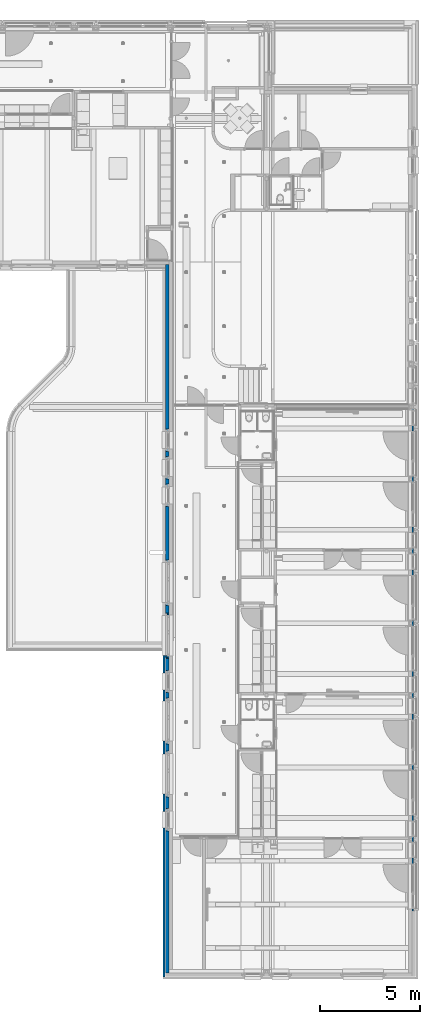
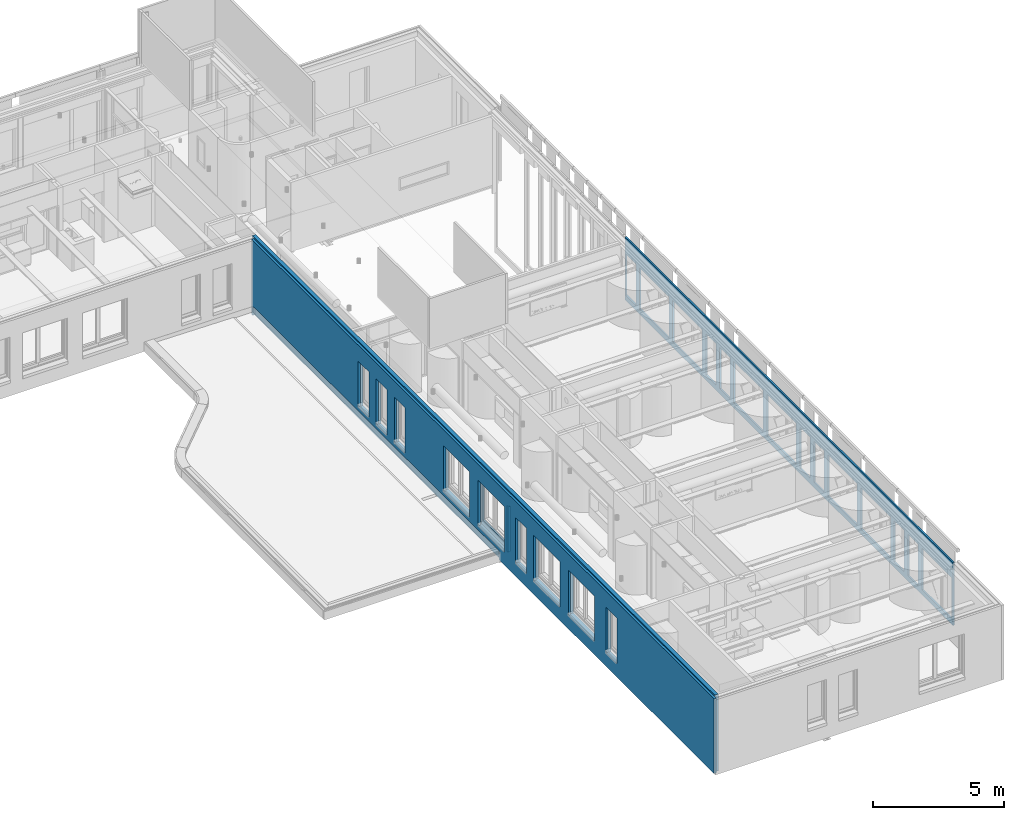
# One storey, part 36 of 128: 5 walls, 34 openings.
"""IFC2X3 building model written with IfcOpenShell, lengths in millimetres."""

from ifc_helpers import new_model, entity, si_unit, converted_unit, derived_unit, direction, frame, frame_2d, origin, place, context, subcontext, project, spatial, rectangle, extrude, material, layer, layer_set, layer_usage, type_object, element, save


model = new_model("IFC2X3")

# Units and contexts
model_context = context("Model", 3, precision=0.01, world=origin(), true_north=direction((6.123031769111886e-17, 1.0)))
body_context = subcontext(model_context, "Body", "Model", "MODEL_VIEW")
ifc_project = project(units=[si_unit("LENGTHUNIT", "METRE", prefix="MILLI"), si_unit("AREAUNIT", "SQUARE_METRE"), si_unit("VOLUMEUNIT", "CUBIC_METRE"), converted_unit("PLANEANGLEUNIT", "DEGREE", entity("IfcRatioMeasure", 0.017453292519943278), si_unit("PLANEANGLEUNIT", "RADIAN"), dimensions=[0, 0, 0, 0, 0, 0, 0]), si_unit("MASSUNIT", "GRAM", prefix="KILO"), derived_unit("MASSDENSITYUNIT", [(si_unit("MASSUNIT", "GRAM", prefix="KILO"), 1), (si_unit("LENGTHUNIT", "METRE"), -3)]), derived_unit("IONCONCENTRATIONUNIT", [(si_unit("MASSUNIT", "GRAM", prefix="KILO"), 1), (si_unit("LENGTHUNIT", "METRE"), -3)]), derived_unit("MOMENTOFINERTIAUNIT", [(si_unit("LENGTHUNIT", "METRE"), 4)]), si_unit("TIMEUNIT", "SECOND"), si_unit("FREQUENCYUNIT", "HERTZ"), si_unit("THERMODYNAMICTEMPERATUREUNIT", "DEGREE_CELSIUS"), derived_unit("THERMALTRANSMITTANCEUNIT", [(si_unit("MASSUNIT", "GRAM", prefix="KILO"), 1), (si_unit("THERMODYNAMICTEMPERATUREUNIT", "KELVIN"), -1), (si_unit("TIMEUNIT", "SECOND"), -3)]), derived_unit("THERMALCONDUCTANCEUNIT", [(si_unit("MASSUNIT", "GRAM", prefix="KILO"), 1), (si_unit("THERMODYNAMICTEMPERATUREUNIT", "KELVIN"), -1), (si_unit("TIMEUNIT", "SECOND"), -3), (si_unit("LENGTHUNIT", "METRE"), 1)]), derived_unit("VOLUMETRICFLOWRATEUNIT", [(si_unit("LENGTHUNIT", "METRE"), 3), (si_unit("TIMEUNIT", "SECOND"), -1)]), derived_unit("MASSFLOWRATEUNIT", [(si_unit("MASSUNIT", "GRAM", prefix="KILO"), 1), (si_unit("TIMEUNIT", "SECOND"), -1)]), derived_unit("ROTATIONALFREQUENCYUNIT", [(si_unit("TIMEUNIT", "SECOND"), -1)]), si_unit("ELECTRICCURRENTUNIT", "AMPERE"), si_unit("ELECTRICVOLTAGEUNIT", "VOLT"), si_unit("POWERUNIT", "WATT"), si_unit("FORCEUNIT", "NEWTON", prefix="KILO"), si_unit("ILLUMINANCEUNIT", "LUX"), si_unit("LUMINOUSFLUXUNIT", "LUMEN"), si_unit("LUMINOUSINTENSITYUNIT", "CANDELA"), derived_unit("USERDEFINED", [(si_unit("MASSUNIT", "GRAM", prefix="KILO"), -1), (si_unit("LENGTHUNIT", "METRE"), -2), (si_unit("TIMEUNIT", "SECOND"), 3), (si_unit("LUMINOUSFLUXUNIT", "LUMEN"), 1)]), derived_unit("USERDEFINED", [(si_unit("MASSUNIT", "GRAM", prefix="KILO"), 1), (si_unit("TIMEUNIT", "SECOND"), -3), (si_unit("LENGTHUNIT", "METRE"), 3), (si_unit("ELECTRICCURRENTUNIT", "AMPERE"), -2)]), derived_unit("SOUNDPOWERUNIT", [(si_unit("MASSUNIT", "GRAM", prefix="KILO"), 1), (si_unit("TIMEUNIT", "SECOND"), -3), (si_unit("LENGTHUNIT", "METRE"), 2)]), derived_unit("SOUNDPRESSUREUNIT", [(si_unit("MASSUNIT", "GRAM", prefix="KILO"), 1), (si_unit("LENGTHUNIT", "METRE"), -1), (si_unit("TIMEUNIT", "SECOND"), -2)]), derived_unit("LINEARVELOCITYUNIT", [(si_unit("LENGTHUNIT", "METRE"), 1), (si_unit("TIMEUNIT", "SECOND"), -1)]), si_unit("PRESSUREUNIT", "PASCAL"), derived_unit("USERDEFINED", [(si_unit("MASSUNIT", "GRAM", prefix="KILO"), 1), (si_unit("LENGTHUNIT", "METRE"), -2), (si_unit("TIMEUNIT", "SECOND"), -2)]), derived_unit("LINEARFORCEUNIT", [(si_unit("MASSUNIT", "GRAM", prefix="KILO"), 1), (si_unit("TIMEUNIT", "SECOND"), -2)]), derived_unit("PLANARFORCEUNIT", [(si_unit("MASSUNIT", "GRAM", prefix="KILO"), 1), (si_unit("LENGTHUNIT", "METRE"), -1), (si_unit("TIMEUNIT", "SECOND"), -2)]), derived_unit("SPECIFICHEATCAPACITYUNIT", [(si_unit("THERMODYNAMICTEMPERATUREUNIT", "KELVIN"), -1), (si_unit("LENGTHUNIT", "METRE"), 2), (si_unit("TIMEUNIT", "SECOND"), -2)]), derived_unit("HEATINGVALUEUNIT", [(si_unit("LENGTHUNIT", "METRE"), 2), (si_unit("TIMEUNIT", "SECOND"), -2)]), derived_unit("VAPORPERMEABILITYUNIT", [(si_unit("LENGTHUNIT", "METRE"), -1), (si_unit("TIMEUNIT", "SECOND"), 1)]), derived_unit("DYNAMICVISCOSITYUNIT", [(si_unit("MASSUNIT", "GRAM", prefix="KILO"), 1), (si_unit("TIMEUNIT", "SECOND"), -1), (si_unit("LENGTHUNIT", "METRE"), -1)]), derived_unit("THERMALEXPANSIONCOEFFICIENTUNIT", [(si_unit("THERMODYNAMICTEMPERATUREUNIT", "KELVIN"), -1)]), derived_unit("MODULUSOFELASTICITYUNIT", [(si_unit("MASSUNIT", "GRAM", prefix="KILO"), 1), (si_unit("LENGTHUNIT", "METRE"), -1), (si_unit("TIMEUNIT", "SECOND"), -2)]), derived_unit("ISOTHERMALMOISTURECAPACITYUNIT", [(si_unit("LENGTHUNIT", "METRE"), 3), (si_unit("MASSUNIT", "GRAM", prefix="KILO"), -1)]), derived_unit("MOISTUREDIFFUSIVITYUNIT", [(si_unit("TIMEUNIT", "SECOND"), -1), (si_unit("LENGTHUNIT", "METRE"), 2)])], contexts=[model_context])

# Site, building, storey
site_placement = place(None, frame((0.0, 300.0, 0.0)))
site = spatial("IfcSite", under=ifc_project, at=site_placement, Name="<Kadastrale nummers>", CompositionType="ELEMENT")
building_placement = place(site_placement, origin())
building = spatial("IfcBuilding", under=site, at=building_placement, CompositionType="ELEMENT")
storey_placement = place(building_placement, frame((0.0, 0.0, 3560.0000331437)))
storey = spatial("IfcBuildingStorey", under=building, at=storey_placement, Name="01 eerste verdieping", CompositionType="ELEMENT", Elevation=3560.0000331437)

# Wall, openings
ifc_material_1 = material(Name="ISR_Metselwerk")
ifc_layer_1 = layer(ifc_material_1, 100.0)
ifc_layer_set_1 = layer_set([ifc_layer_1], Name="Basic Wall:21_DAT_metselwerk_100")
ifc_layer_usage_1 = layer_usage(ifc_layer_set_1, "AXIS2", "NEGATIVE", 50.0)
wall_type_1 = type_object("IfcWallType", Name="Basic Wall:21_DAT_metselwerk_100", PredefinedType="STANDARD", material=ifc_layer_set_1)
wall_1_placement = place(storey_placement, frame((36275.0, 2424.9986232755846, 90.00000187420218), z_axis=(0.0, 0.0, 1.0), x_axis=(0.0, 1.0, 0.0)))
wall_1 = element("IfcWallStandardCase", 1, at=wall_1_placement, inside=storey, type_object=wall_type_1, material=ifc_layer_usage_1, Name="Basic Wall:21_DAT_metselwerk_100", ObjectType="Basic Wall:21_DAT_metselwerk_100", context=body_context, shape_type="SweptSolid", body=[
    extrude(rectangle(XDim=35400.0013767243, YDim=100.00000000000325, at=frame_2d((17700.00068836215, 1.1013412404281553e-13), x_axis=(-1.0, 0.0))), origin(), (0.0, 0.0, 1.0), 3499.9999999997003),
])
opening_1_placement = place(wall_1_placement, origin())
element("IfcOpeningElement", 2, at=opening_1_placement, cuts=wall_1, Name="Basic Wall:21_DAT_metselwerk_100", ObjectType="Opening", context=body_context, shape_type="SweptSolid", body=[
    extrude(rectangle(XDim=514.999966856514, YDim=18840.000000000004, at=frame_2d((0.0, 2.8421709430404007e-13), x_axis=(0.0, 1.0))), frame((25880.0013767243, -202.3999999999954, 167.49998155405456), z_axis=(0.0, 1.0, 0.0), x_axis=(-1.0, 0.0, 0.0)), (0.0, 0.0, 1.0), 404.79999999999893),
])
opening_2_placement = place(wall_1_placement, frame((-2424.9986232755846, 36275.0, -90.0000018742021), z_axis=(0.0, 0.0, 1.0), x_axis=(0.0, -1.0, 0.0)))
element("IfcOpeningElement", 3, at=opening_2_placement, cuts=wall_1, Name="Basic Wall:21_DAT_metselwerk_100", ObjectType="Opening", context=body_context, shape_type="SweptSolid", body=[
    extrude(rectangle(XDim=2124.999999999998, YDim=839.9999999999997, at=frame_2d((5.684341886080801e-13, 0.0), x_axis=(1.0, 0.0))), frame((36325.0, 26485.0, 1777.5000018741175), z_axis=(-1.0, 0.0, 0.0), x_axis=(0.0, 0.0, -1.0)), (0.0, 0.0, 1.0), 100.00000000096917),
])
opening_3_placement = place(wall_1_placement, frame((-2424.9986232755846, 36275.0, -90.0000018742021), z_axis=(0.0, 0.0, 1.0), x_axis=(0.0, -1.0, 0.0)))
element("IfcOpeningElement", 4, at=opening_3_placement, cuts=wall_1, Name="Basic Wall:21_DAT_metselwerk_100", ObjectType="Opening", context=body_context, shape_type="SweptSolid", body=[
    extrude(rectangle(XDim=2124.999999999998, YDim=2000.0000000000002, at=frame_2d((2.2737367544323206e-13, 2.1600499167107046e-12), x_axis=(1.0, 0.0))), frame((36325.0, 22130.0, 1777.5000018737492), z_axis=(-1.0, 0.0, 0.0), x_axis=(0.0, 0.0, -1.0)), (0.0, 0.0, 1.0), 100.00000000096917),
])
opening_4_placement = place(wall_1_placement, frame((-2424.9986232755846, 36275.0, -90.0000018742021), z_axis=(0.0, 0.0, 1.0), x_axis=(0.0, -1.0, 0.0)))
element("IfcOpeningElement", 5, at=opening_4_placement, cuts=wall_1, Name="Basic Wall:21_DAT_metselwerk_100", ObjectType="Opening", context=body_context, shape_type="SweptSolid", body=[
    extrude(rectangle(XDim=2124.999999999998, YDim=1999.9999999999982, at=frame_2d((2.2737367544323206e-13, 1.0800249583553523e-12), x_axis=(1.0, 0.0))), frame((36325.0, 12580.0, 1777.5000018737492), z_axis=(-1.0, 0.0, 0.0), x_axis=(0.0, 0.0, -1.0)), (0.0, 0.0, 1.0), 100.00000000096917),
])
opening_5_placement = place(wall_1_placement, frame((-2424.9986232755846, 36275.0, -90.0000018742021), z_axis=(0.0, 0.0, 1.0), x_axis=(0.0, -1.0, 0.0)))
element("IfcOpeningElement", 6, at=opening_5_placement, cuts=wall_1, Name="Basic Wall:21_DAT_metselwerk_100", ObjectType="Opening", context=body_context, shape_type="SweptSolid", body=[
    extrude(rectangle(XDim=2124.999999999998, YDim=1999.9999999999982, at=frame_2d((5.684341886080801e-13, 1.0800249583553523e-12), x_axis=(1.0, 0.0))), frame((36325.0, 15230.0, 1777.500001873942), z_axis=(-1.0, 0.0, 0.0), x_axis=(0.0, 0.0, -1.0)), (0.0, 0.0, 1.0), 100.00000000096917),
])
opening_6_placement = place(wall_1_placement, frame((-2424.9986232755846, 36275.0, -90.0000018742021), z_axis=(0.0, 0.0, 1.0), x_axis=(0.0, -1.0, 0.0)))
element("IfcOpeningElement", 7, at=opening_6_placement, cuts=wall_1, Name="Basic Wall:21_DAT_metselwerk_100", ObjectType="Opening", context=body_context, shape_type="SweptSolid", body=[
    extrude(rectangle(XDim=2124.999999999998, YDim=1999.9999999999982, at=frame_2d((2.2737367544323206e-13, -1.0800249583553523e-12), x_axis=(1.0, 0.0))), frame((36325.0, 19480.0, 1777.5000018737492), z_axis=(-1.0, 0.0, 0.0), x_axis=(0.0, 0.0, -1.0)), (0.0, 0.0, 1.0), 100.00000000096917),
])
opening_7_placement = place(wall_1_placement, frame((-2424.9986232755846, 36275.0, -90.0000018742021), z_axis=(0.0, 0.0, 1.0), x_axis=(0.0, -1.0, 0.0)))
element("IfcOpeningElement", 8, at=opening_7_placement, cuts=wall_1, Name="Basic Wall:21_DAT_metselwerk_100", ObjectType="Opening", context=body_context, shape_type="SweptSolid", body=[
    extrude(rectangle(XDim=2124.999999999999, YDim=839.9999999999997, at=frame_2d((-5.684341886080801e-13, 0.0), x_axis=(1.0, 0.0))), frame((36325.0, 17190.0, 1777.5000018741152), z_axis=(-1.0, 0.0, 0.0), x_axis=(0.0, 0.0, -1.0)), (0.0, 0.0, 1.0), 100.00000000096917),
])
opening_8_placement = place(wall_1_placement, frame((-2424.9986232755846, 36275.0, -90.0000018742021), z_axis=(0.0, 0.0, 1.0), x_axis=(0.0, -1.0, 0.0)))
element("IfcOpeningElement", 9, at=opening_8_placement, cuts=wall_1, Name="Basic Wall:21_DAT_metselwerk_100", ObjectType="Opening", context=body_context, shape_type="SweptSolid", body=[
    extrude(rectangle(XDim=2124.999999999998, YDim=839.9999999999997, at=frame_2d((2.2737367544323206e-13, 0.0), x_axis=(1.0, 0.0))), frame((36325.0, 10290.0, 1777.5000018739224), z_axis=(-1.0, 0.0, 0.0), x_axis=(0.0, 0.0, -1.0)), (0.0, 0.0, 1.0), 100.00000000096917),
])
opening_9_placement = place(wall_1_placement, frame((-2424.9986232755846, 36275.0, -90.0000018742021), z_axis=(0.0, 0.0, 1.0), x_axis=(0.0, -1.0, 0.0)))
element("IfcOpeningElement", 10, at=opening_9_placement, cuts=wall_1, Name="Basic Wall:21_DAT_metselwerk_100", ObjectType="Opening", context=body_context, shape_type="SweptSolid", body=[
    extrude(rectangle(XDim=2124.999999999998, YDim=839.9999999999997, at=frame_2d((5.684341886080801e-13, 0.0), x_axis=(1.0, 0.0))), frame((36325.0, 27865.0, 1777.5000018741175), z_axis=(-1.0, 0.0, 0.0), x_axis=(0.0, 0.0, -1.0)), (0.0, 0.0, 1.0), 100.00000000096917),
])
opening_10_placement = place(wall_1_placement, frame((-2424.9986232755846, 36275.0, -90.0000018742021), z_axis=(0.0, 0.0, 1.0), x_axis=(0.0, -1.0, 0.0)))
element("IfcOpeningElement", 11, at=opening_10_placement, cuts=wall_1, Name="Basic Wall:21_DAT_metselwerk_100", ObjectType="Opening", context=body_context, shape_type="SweptSolid", body=[
    extrude(rectangle(XDim=2124.999999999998, YDim=839.9999999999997, at=frame_2d((5.684341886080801e-13, 0.0), x_axis=(1.0, 0.0))), frame((36325.0, 29245.0, 1777.5000018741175), z_axis=(-1.0, 0.0, 0.0), x_axis=(0.0, 0.0, -1.0)), (0.0, 0.0, 1.0), 100.00000000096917),
])

# Wall
wall_2_placement = place(storey_placement, frame((36325.0, 18430.0, 715.0000018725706)))
element("IfcWallStandardCase", 12, at=wall_2_placement, inside=storey, type_object=wall_type_1, material=ifc_layer_usage_1, Name="Basic Wall:21_DAT_metselwerk_100", ObjectType="Basic Wall:21_DAT_metselwerk_100", context=body_context, shape_type="SweptSolid", body=[
    extrude(rectangle(XDim=110.00000000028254, YDim=99.99999999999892, at=frame_2d((55.00000000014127, -1.6697754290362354e-13), x_axis=(-1.0, 0.0))), origin(), (0.0, 0.0, 1.0), 2125.0000000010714),
])

# Wall, openings
ifc_material_2 = material(Name="ISR_Isolatie")
ifc_layer_2 = layer(ifc_material_2, 160.0)
ifc_layer_set_2 = layer_set([ifc_layer_2], Name="Basic Wall:21_DAT_isolatie minerale wol_160")
ifc_layer_usage_2 = layer_usage(ifc_layer_set_2, "AXIS2", "NEGATIVE", 80.0)
wall_type_2 = type_object("IfcWallType", Name="Basic Wall:21_DAT_isolatie minerale wol_160", PredefinedType="STANDARD", material=ifc_layer_set_2)
wall_3_placement = place(storey_placement, frame((36445.0, 2624.9986232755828, 0.0), z_axis=(0.0, 0.0, 1.0), x_axis=(0.0, 1.0, 0.0)))
wall_3 = element("IfcWallStandardCase", 13, at=wall_3_placement, inside=storey, type_object=wall_type_2, material=ifc_layer_usage_2, Name="Basic Wall:21_DAT_isolatie minerale wol_160", ObjectType="Basic Wall:21_DAT_isolatie minerale wol_160", context=body_context, shape_type="SweptSolid", body=[
    extrude(rectangle(XDim=35400.0013767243, YDim=159.99999999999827, at=frame_2d((17700.00068836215, 0.0), x_axis=(-1.0, 0.0))), origin(), (0.0, 0.0, 1.0), 3590.000001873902),
])
opening_11_placement = place(wall_3_placement, origin())
element("IfcOpeningElement", 14, at=opening_11_placement, cuts=wall_3, Name="Basic Wall:21_DAT_isolatie minerale wol_160", ObjectType="Opening", context=body_context, shape_type="SweptSolid", body=[
    extrude(rectangle(XDim=2312.5000000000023, YDim=2289.999999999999, at=frame_2d((0.0, 2.2737367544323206e-13), x_axis=(0.0, 1.0))), frame((19500.001376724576, -232.3999999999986, 1808.7500018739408), z_axis=(0.0, 1.0, 0.0), x_axis=(-1.0, 0.0, 0.0)), (0.0, 0.0, 1.0), 464.7999999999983),
])
opening_12_placement = place(wall_3_placement, origin())
element("IfcOpeningElement", 15, at=opening_12_placement, cuts=wall_3, Name="Basic Wall:21_DAT_isolatie minerale wol_160", ObjectType="Opening", context=body_context, shape_type="SweptSolid", body=[
    extrude(rectangle(XDim=2312.5000000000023, YDim=2290.0000000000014, at=frame_2d((1.1368683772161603e-12, 2.2737367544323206e-13), x_axis=(0.0, 1.0))), frame((16850.001376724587, -232.3999999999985, 1808.7500018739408), z_axis=(0.0, 1.0, 0.0), x_axis=(-1.0, 0.0, 0.0)), (0.0, 0.0, 1.0), 464.7999999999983),
])
opening_13_placement = place(wall_3_placement, origin())
element("IfcOpeningElement", 16, at=opening_13_placement, cuts=wall_3, Name="Basic Wall:21_DAT_isolatie minerale wol_160", ObjectType="Opening", context=body_context, shape_type="SweptSolid", body=[
    extrude(rectangle(XDim=2312.5000000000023, YDim=2289.999999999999, at=frame_2d((0.0, 2.2737367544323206e-13), x_axis=(0.0, 1.0))), frame((12600.001376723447, -232.39999999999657, 1808.7500018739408), z_axis=(0.0, 1.0, 0.0), x_axis=(-1.0, 0.0, 0.0)), (0.0, 0.0, 1.0), 464.7999999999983),
])
opening_14_placement = place(wall_3_placement, origin())
element("IfcOpeningElement", 17, at=opening_14_placement, cuts=wall_3, Name="Basic Wall:21_DAT_isolatie minerale wol_160", ObjectType="Opening", context=body_context, shape_type="SweptSolid", body=[
    extrude(rectangle(XDim=2312.5000000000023, YDim=2289.999999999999, at=frame_2d((0.0, 2.2737367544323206e-13), x_axis=(0.0, 1.0))), frame((9950.001376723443, -232.4000000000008, 1808.7500018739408), z_axis=(0.0, 1.0, 0.0), x_axis=(-1.0, 0.0, 0.0)), (0.0, 0.0, 1.0), 464.7999999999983),
])
opening_15_placement = place(wall_3_placement, origin())
element("IfcOpeningElement", 18, at=opening_15_placement, cuts=wall_3, Name="Basic Wall:21_DAT_isolatie minerale wol_160", ObjectType="Opening", context=body_context, shape_type="SweptSolid", body=[
    extrude(rectangle(XDim=2375.000035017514, YDim=1119.9999999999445, at=frame_2d((4.376943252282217e-12, 0.0), x_axis=(0.0, 1.0))), frame((26620.001376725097, -232.40000000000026, 1777.4999843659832), z_axis=(0.0, 1.0, 0.0), x_axis=(-1.0, 0.0, 0.0)), (0.0, 0.0, 1.0), 464.7999999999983),
])
opening_16_placement = place(wall_3_placement, origin())
element("IfcOpeningElement", 19, at=opening_16_placement, cuts=wall_3, Name="Basic Wall:21_DAT_isolatie minerale wol_160", ObjectType="Opening", context=body_context, shape_type="SweptSolid", body=[
    extrude(rectangle(XDim=2375.000035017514, YDim=1119.9999999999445, at=frame_2d((4.376943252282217e-12, 0.0), x_axis=(0.0, 1.0))), frame((25240.001376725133, -232.39999999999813, 1777.4999843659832), z_axis=(0.0, 1.0, 0.0), x_axis=(-1.0, 0.0, 0.0)), (0.0, 0.0, 1.0), 464.7999999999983),
])
opening_17_placement = place(wall_3_placement, origin())
element("IfcOpeningElement", 20, at=opening_17_placement, cuts=wall_3, Name="Basic Wall:21_DAT_isolatie minerale wol_160", ObjectType="Opening", context=body_context, shape_type="SweptSolid", body=[
    extrude(rectangle(XDim=2375.000035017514, YDim=1119.9999999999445, at=frame_2d((0.0, 0.0), x_axis=(0.0, 1.0))), frame((23860.001376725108, -232.40000000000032, 1777.4999843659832), z_axis=(0.0, 1.0, 0.0), x_axis=(-1.0, 0.0, 0.0)), (0.0, 0.0, 1.0), 464.7999999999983),
])
opening_18_placement = place(wall_3_placement, origin())
element("IfcOpeningElement", 21, at=opening_18_placement, cuts=wall_3, Name="Basic Wall:21_DAT_isolatie minerale wol_160", ObjectType="Opening", context=body_context, shape_type="SweptSolid", body=[
    extrude(rectangle(XDim=2375.000035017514, YDim=1119.9999999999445, at=frame_2d((0.0, 0.0), x_axis=(0.0, 1.0))), frame((14565.001376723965, -232.3999999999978, 1777.4999843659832), z_axis=(0.0, 1.0, 0.0), x_axis=(-1.0, 0.0, 0.0)), (0.0, 0.0, 1.0), 464.7999999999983),
])
opening_19_placement = place(wall_3_placement, origin())
element("IfcOpeningElement", 22, at=opening_19_placement, cuts=wall_3, Name="Basic Wall:21_DAT_isolatie minerale wol_160", ObjectType="Opening", context=body_context, shape_type="SweptSolid", body=[
    extrude(rectangle(XDim=2375.000035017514, YDim=1119.9999999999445, at=frame_2d((-5.115907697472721e-13, 0.0), x_axis=(0.0, 1.0))), frame((7665.001376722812, -232.39999999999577, 1777.4999843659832), z_axis=(0.0, 1.0, 0.0), x_axis=(-1.0, 0.0, 0.0)), (0.0, 0.0, 1.0), 464.7999999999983),
])

ifc_layer_3 = layer(ifc_material_2, 70.0)
ifc_layer_set_3 = layer_set([ifc_layer_3], Name="Basic Wall:21_DAT_isolatie hard_74")
ifc_layer_usage_3 = layer_usage(ifc_layer_set_3, "AXIS2", "NEGATIVE", 35.0)
wall_type_3 = type_object("IfcWallType", Name="Basic Wall:21_DAT_isolatie hard_74", PredefinedType="STANDARD", material=ifc_layer_set_3)
wall_4_placement = place(storey_placement, frame((48710.0, 30820.0, 652.5000018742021), z_axis=(0.0, 0.0, 1.0), x_axis=(0.0, -1.0, 0.0)))
wall_4 = element("IfcWallStandardCase", 23, at=wall_4_placement, inside=storey, type_object=wall_type_3, material=ifc_layer_usage_3, Name="Basic Wall:21_DAT_isolatie hard_74", ObjectType="Basic Wall:21_DAT_isolatie hard_74", context=body_context, shape_type="SweptSolid", body=[
    extrude(rectangle(XDim=25099.999999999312, YDim=70.00000000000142, at=frame_2d((12549.999999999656, 4.618527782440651e-14), x_axis=(-1.0, 0.0))), origin(), (0.0, 0.0, 1.0), 2937.4999999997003),
])
opening_20_placement = place(wall_4_placement, origin())
element("IfcOpeningElement", 24, at=opening_20_placement, cuts=wall_4, Name="Basic Wall:21_DAT_isolatie hard_74", ObjectType="Opening", context=body_context, shape_type="SweptSolid", body=[
    extrude(rectangle(XDim=1929.9999649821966, YDim=2249.9999999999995, at=frame_2d((0.0, -2.8421709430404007e-13), x_axis=(0.0, 1.0))), frame((2255.0, -187.4000000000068, 1212.499982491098), z_axis=(0.0, 1.0, 0.0), x_axis=(-1.0, 0.0, 0.0)), (0.0, 0.0, 1.0), 374.80000000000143),
])
opening_21_placement = place(wall_4_placement, origin())
element("IfcOpeningElement", 25, at=opening_21_placement, cuts=wall_4, Name="Basic Wall:21_DAT_isolatie hard_74", ObjectType="Opening", context=body_context, shape_type="SweptSolid", body=[
    extrude(rectangle(XDim=1929.9999649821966, YDim=2249.9999999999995, at=frame_2d((-4.320099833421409e-12, -2.8421709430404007e-13), x_axis=(0.0, 1.0))), frame((4785.0, -187.40000000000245, 1212.499982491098), z_axis=(0.0, 1.0, 0.0), x_axis=(-1.0, 0.0, 0.0)), (0.0, 0.0, 1.0), 374.80000000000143),
])
opening_22_placement = place(wall_4_placement, origin())
element("IfcOpeningElement", 26, at=opening_22_placement, cuts=wall_4, Name="Basic Wall:21_DAT_isolatie hard_74", ObjectType="Opening", context=body_context, shape_type="SweptSolid", body=[
    extrude(rectangle(XDim=1929.9999649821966, YDim=2249.9999999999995, at=frame_2d((0.0, -2.8421709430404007e-13), x_axis=(0.0, 1.0))), frame((9455.0, -187.40000000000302, 1212.499982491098), z_axis=(0.0, 1.0, 0.0), x_axis=(-1.0, 0.0, 0.0)), (0.0, 0.0, 1.0), 374.80000000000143),
])
opening_23_placement = place(wall_4_placement, origin())
element("IfcOpeningElement", 27, at=opening_23_placement, cuts=wall_4, Name="Basic Wall:21_DAT_isolatie hard_74", ObjectType="Opening", context=body_context, shape_type="SweptSolid", body=[
    extrude(rectangle(XDim=1929.9999649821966, YDim=2249.9999999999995, at=frame_2d((0.0, -2.8421709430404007e-13), x_axis=(0.0, 1.0))), frame((11985.0, -187.4000000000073, 1212.499982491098), z_axis=(0.0, 1.0, 0.0), x_axis=(-1.0, 0.0, 0.0)), (0.0, 0.0, 1.0), 374.80000000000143),
])
opening_24_placement = place(wall_4_placement, origin())
element("IfcOpeningElement", 28, at=opening_24_placement, cuts=wall_4, Name="Basic Wall:21_DAT_isolatie hard_74", ObjectType="Opening", context=body_context, shape_type="SweptSolid", body=[
    extrude(rectangle(XDim=1929.9999649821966, YDim=2249.9999999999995, at=frame_2d((0.0, -2.8421709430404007e-13), x_axis=(0.0, 1.0))), frame((16655.0, -187.3999999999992, 1212.499982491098), z_axis=(0.0, 1.0, 0.0), x_axis=(-1.0, 0.0, 0.0)), (0.0, 0.0, 1.0), 374.80000000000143),
])
opening_25_placement = place(wall_4_placement, origin())
element("IfcOpeningElement", 29, at=opening_25_placement, cuts=wall_4, Name="Basic Wall:21_DAT_isolatie hard_74", ObjectType="Opening", context=body_context, shape_type="SweptSolid", body=[
    extrude(rectangle(XDim=1929.9999649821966, YDim=2249.9999999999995, at=frame_2d((0.0, -2.8421709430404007e-13), x_axis=(0.0, 1.0))), frame((19185.0, -187.40000000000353, 1212.499982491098), z_axis=(0.0, 1.0, 0.0), x_axis=(-1.0, 0.0, 0.0)), (0.0, 0.0, 1.0), 374.80000000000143),
])
opening_26_placement = place(wall_4_placement, origin())
element("IfcOpeningElement", 30, at=opening_26_placement, cuts=wall_4, Name="Basic Wall:21_DAT_isolatie hard_74", ObjectType="Opening", context=body_context, shape_type="SweptSolid", body=[
    extrude(rectangle(XDim=1929.9999649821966, YDim=2249.9999999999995, at=frame_2d((0.0, -2.8421709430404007e-13), x_axis=(0.0, 1.0))), frame((23855.0, -187.4000000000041, 1212.499982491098), z_axis=(0.0, 1.0, 0.0), x_axis=(-1.0, 0.0, 0.0)), (0.0, 0.0, 1.0), 374.80000000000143),
])
opening_27_placement = place(wall_4_placement, origin())
element("IfcOpeningElement", 31, at=opening_27_placement, cuts=wall_4, Name="Basic Wall:21_DAT_isolatie hard_74", ObjectType="Opening", context=body_context, shape_type="SweptSolid", body=[
    extrude(rectangle(XDim=1929.9999649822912, YDim=789.999999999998, at=frame_2d((2.1600499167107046e-12, 0.0), x_axis=(0.0, 1.0))), frame((455.0, -187.40000000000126, 1212.499982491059), z_axis=(0.0, 1.0, 0.0), x_axis=(-1.0, 0.0, 0.0)), (0.0, 0.0, 1.0), 374.80000000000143),
])
opening_28_placement = place(wall_4_placement, origin())
element("IfcOpeningElement", 32, at=opening_28_placement, cuts=wall_4, Name="Basic Wall:21_DAT_isolatie hard_74", ObjectType="Opening", context=body_context, shape_type="SweptSolid", body=[
    extrude(rectangle(XDim=1929.9999649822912, YDim=789.999999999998, at=frame_2d((2.1600499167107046e-12, 0.0), x_axis=(0.0, 1.0))), frame((6585.0, -187.39999999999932, 1212.499982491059), z_axis=(0.0, 1.0, 0.0), x_axis=(-1.0, 0.0, 0.0)), (0.0, 0.0, 1.0), 374.80000000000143),
])
opening_29_placement = place(wall_4_placement, origin())
element("IfcOpeningElement", 33, at=opening_29_placement, cuts=wall_4, Name="Basic Wall:21_DAT_isolatie hard_74", ObjectType="Opening", context=body_context, shape_type="SweptSolid", body=[
    extrude(rectangle(XDim=1929.9999649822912, YDim=789.999999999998, at=frame_2d((-2.1600499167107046e-12, 0.0), x_axis=(0.0, 1.0))), frame((7655.0, -187.39999999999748, 1212.499982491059), z_axis=(0.0, 1.0, 0.0), x_axis=(-1.0, 0.0, 0.0)), (0.0, 0.0, 1.0), 374.80000000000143),
])
opening_30_placement = place(wall_4_placement, origin())
element("IfcOpeningElement", 34, at=opening_30_placement, cuts=wall_4, Name="Basic Wall:21_DAT_isolatie hard_74", ObjectType="Opening", context=body_context, shape_type="SweptSolid", body=[
    extrude(rectangle(XDim=1929.9999649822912, YDim=789.999999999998, at=frame_2d((0.0, 0.0), x_axis=(0.0, 1.0))), frame((13785.0, -187.40000000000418, 1212.499982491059), z_axis=(0.0, 1.0, 0.0), x_axis=(-1.0, 0.0, 0.0)), (0.0, 0.0, 1.0), 374.80000000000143),
])
opening_31_placement = place(wall_4_placement, origin())
element("IfcOpeningElement", 35, at=opening_31_placement, cuts=wall_4, Name="Basic Wall:21_DAT_isolatie hard_74", ObjectType="Opening", context=body_context, shape_type="SweptSolid", body=[
    extrude(rectangle(XDim=1929.9999649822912, YDim=790.0000000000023, at=frame_2d((0.0, 0.0), x_axis=(0.0, 1.0))), frame((14855.0, -187.40000000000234, 1212.499982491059), z_axis=(0.0, 1.0, 0.0), x_axis=(-1.0, 0.0, 0.0)), (0.0, 0.0, 1.0), 374.80000000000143),
])
opening_32_placement = place(wall_4_placement, origin())
element("IfcOpeningElement", 36, at=opening_32_placement, cuts=wall_4, Name="Basic Wall:21_DAT_isolatie hard_74", ObjectType="Opening", context=body_context, shape_type="SweptSolid", body=[
    extrude(rectangle(XDim=1929.9999649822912, YDim=789.999999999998, at=frame_2d((0.0, 0.0), x_axis=(0.0, 1.0))), frame((20985.0, -187.4000000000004, 1212.499982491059), z_axis=(0.0, 1.0, 0.0), x_axis=(-1.0, 0.0, 0.0)), (0.0, 0.0, 1.0), 374.80000000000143),
])
opening_33_placement = place(wall_4_placement, origin())
element("IfcOpeningElement", 37, at=opening_33_placement, cuts=wall_4, Name="Basic Wall:21_DAT_isolatie hard_74", ObjectType="Opening", context=body_context, shape_type="SweptSolid", body=[
    extrude(rectangle(XDim=1929.9999649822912, YDim=789.999999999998, at=frame_2d((0.0, 0.0), x_axis=(0.0, 1.0))), frame((22047.0, -187.39999999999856, 1212.499982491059), z_axis=(0.0, 1.0, 0.0), x_axis=(-1.0, 0.0, 0.0)), (0.0, 0.0, 1.0), 374.80000000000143),
])

# Wall, opening
ifc_layer_usage_4 = layer_usage(ifc_layer_set_3, "AXIS2", "POSITIVE", -35.0)
wall_5_placement = place(storey_placement, frame((36490.0, 20620.0, 652.50000187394), z_axis=(0.0, 0.0, 1.0), x_axis=(0.0, -1.0, 0.0)))
wall_5 = element("IfcWallStandardCase", 38, at=wall_5_placement, inside=storey, type_object=wall_type_3, material=ifc_layer_usage_4, Name="Basic Wall:21_DAT_isolatie hard_74", ObjectType="Basic Wall:21_DAT_isolatie hard_74", context=body_context, shape_type="SweptSolid", body=[
    extrude(rectangle(XDim=2290.0000000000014, YDim=70.00000000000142, at=frame_2d((1145.0000000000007, -8.526512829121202e-13), x_axis=(-1.0, 0.0))), origin(), (0.0, 0.0, 1.0), 2312.5000000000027),
])
opening_34_placement = place(wall_5_placement, origin())
element("IfcOpeningElement", 39, at=opening_34_placement, cuts=wall_5, Name="Basic Wall:21_DAT_isolatie hard_74", ObjectType="Opening", context=body_context, shape_type="SweptSolid", body=[
    extrude(rectangle(XDim=1930.000000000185, YDim=2039.9999999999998, at=frame_2d((0.0, 2.1600499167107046e-12), x_axis=(1.0, 0.0))), frame((1140.0, -187.39999999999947, 1212.499999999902), z_axis=(0.0, 1.0, 0.0), x_axis=(0.0, 0.0, 1.0)), (0.0, 0.0, 1.0), 374.80000000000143),
])

save(model, "model.ifc")
